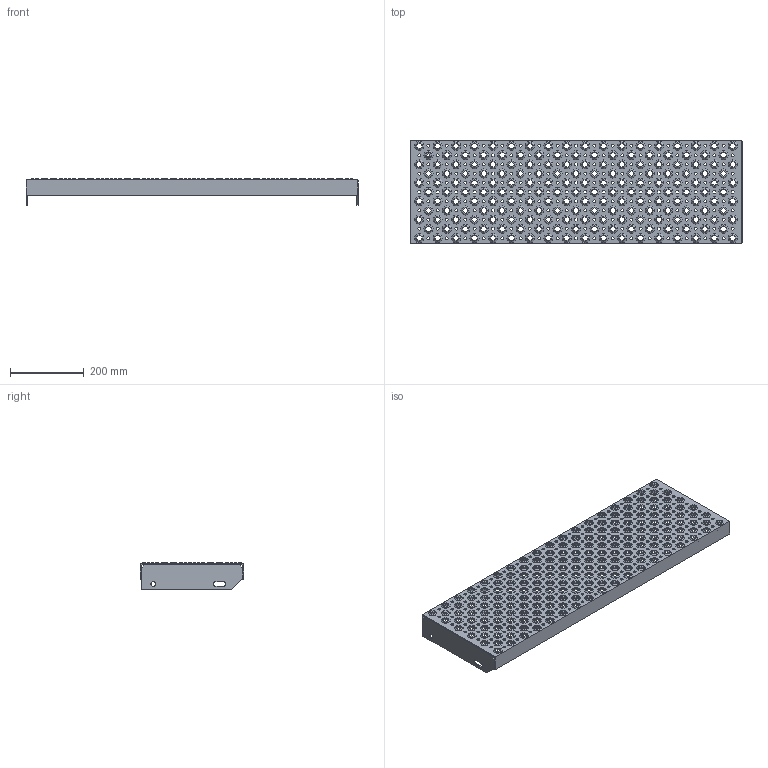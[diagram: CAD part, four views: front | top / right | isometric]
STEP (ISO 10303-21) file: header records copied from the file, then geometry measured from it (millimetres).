
FILE_DESCRIPTION(('Open CASCADE Model'),'2;1');
FILE_NAME('Open CASCADE Shape Model','2020-06-30T12:28:09',('Author'),( 'Open CASCADE'),'Open CASCADE STEP processor 7.2','Open CASCADE 7.2' ,'Unknown');
FILE_SCHEMA(('AUTOMOTIVE_DESIGN { 1 0 10303 214 1 1 1 1 }'));
Length unit declared in the file: millimetre
Products named in the file (8119): Open CASCADE STEP translator 7.2 1; Open CASCADE STEP translator 7.2 2; Open CASCADE STEP translator 7.2 3; Open CASCADE STEP translator 7.2 3.1; Open CASCADE STEP translator 7.2 3.2; Open CASCADE STEP translator 7.2 3.3; Open CASCADE STEP translator 7.2 3.4; Open CASCADE STEP translator 7.2 3.5; Open CASCADE STEP translator 7.2 3.6; Open CASCADE STEP translator 7.2 3.7; Open CASCADE STEP translator 7.2 3.8; Open CASCADE STEP translator 7.2 3.9; Open CASCADE STEP translator 7.2 3.10; Open CASCADE STEP translator 7.2 3.11; Open CASCADE STEP translator 7.2 3.12; Open CASCADE STEP translator 7.2 3.13; Open CASCADE STEP translator 7.2 3.14; Open CASCADE STEP translator 7.2 3.15; Open CASCADE STEP translator 7.2 3.16; Open CASCADE STEP translator 7.2 3.17; Open CASCADE STEP translator 7.2 3.18; Open CASCADE STEP translator 7.2 3.19; Open CASCADE STEP translator 7.2 3.20; Open CASCADE STEP translator 7.2 3.21; Open CASCADE STEP translator 7.2 3.22; Open CASCADE STEP translator 7.2 3.23; Open CASCADE STEP translator 7.2 3.24; Open CASCADE STEP translator 7.2 3.25; Open CASCADE STEP translator 7.2 3.26; Open CASCADE STEP translator 7.2 3.27; Open CASCADE STEP translator 7.2 3.28; Open CASCADE STEP translator 7.2 3.29; Open CASCADE STEP translator 7.2 3.30; Open CASCADE STEP translator 7.2 3.31; Open CASCADE STEP translator 7.2 3.32; Open CASCADE STEP translator 7.2 3.33; Open CASCADE STEP translator 7.2 3.34; Open CASCADE STEP translator 7.2 3.35; Open CASCADE STEP translator 7.2 3.36; Open CASCADE STEP translator 7.2 3.37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
Assembly tree (8116 placements, depth 2):
  Open CASCADE STEP translator 7.2 1
  Open CASCADE STEP translator 7.2 2
  Open CASCADE STEP translator 7.2 3
    Open CASCADE STEP translator 7.2 3.1
    Open CASCADE STEP translator 7.2 3.2
    Open CASCADE STEP translator 7.2 3.3
    Open CASCADE STEP translator 7.2 3.4
    Open CASCADE STEP translator 7.2 3.5
    Open CASCADE STEP translator 7.2 3.6
    Open CASCADE STEP translator 7.2 3.7
    Open CASCADE STEP translator 7.2 3.8
    Open CASCADE STEP translator 7.2 3.9
    Open CASCADE STEP translator 7.2 3.10
    Open CASCADE STEP translator 7.2 3.11
    Open CASCADE STEP translator 7.2 3.12
    Open CASCADE STEP translator 7.2 3.13
    Open CASCADE STEP translator 7.2 3.14
    Open CASCADE STEP translator 7.2 3.15
    Open CASCADE STEP translator 7.2 3.16
    Open CASCADE STEP translator 7.2 3.17
    Open CASCADE STEP translator 7.2 3.18
    Open CASCADE STEP translator 7.2 3.19
    Open CASCADE STEP translator 7.2 3.20
    Open CASCADE STEP translator 7.2 3.21
    Open CASCADE STEP translator 7.2 3.22
    Open CASCADE STEP translator 7.2 3.23
    Open CASCADE STEP translator 7.2 3.24
    Open CASCADE STEP translator 7.2 3.25
    Open CASCADE STEP translator 7.2 3.26
    Open CASCADE STEP translator 7.2 3.27
    Open CASCADE STEP translator 7.2 3.28
    Open CASCADE STEP translator 7.2 3.29
    Open CASCADE STEP translator 7.2 3.30
    Open CASCADE STEP translator 7.2 3.31
    Open CASCADE STEP translator 7.2 3.32
    Open CASCADE STEP translator 7.2 3.33
    Open CASCADE STEP translator 7.2 3.34
    Open CASCADE STEP translator 7.2 3.35
    Open CASCADE STEP translator 7.2 3.36
    Open CASCADE STEP translator 7.2 3.37
    Open CASCADE STEP translator 7.2 3.38
    Open CASCADE STEP translator 7.2 3.39
    Open CASCADE STEP translator 7.2 3.40
    Open CASCADE STEP translator 7.2 3.41
    Open CASCADE STEP translator 7.2 3.42
    Open CASCADE STEP translator 7.2 3.43
    Open CASCADE STEP translator 7.2 3.44
    Open CASCADE STEP translator 7.2 3.45
    Open CASCADE STEP translator 7.2 3.46
    Open CASCADE STEP translator 7.2 3.47
    Open CASCADE STEP translator 7.2 3.48
    Open CASCADE STEP translator 7.2 3.49
    Open CASCADE STEP translator 7.2 3.50
    Open CASCADE STEP translator 7.2 3.51
    Open CASCADE STEP translator 7.2 3.52
    Open CASCADE STEP translator 7.2 3.53
    Open CASCADE STEP translator 7.2 3.54
    Open CASCADE STEP translator 7.2 3.55
    Open CASCADE STEP translator 7.2 3.56
    Open CASCADE STEP translator 7.2 3.57
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Bounding box: 900 x 280 x 73 mm (x, y, z)
Volume: 103695.2 mm3; surface area: 842961.7 mm2
Topology: 2 solids, 8118 shells, 8144 faces, 46440 edges, 46416 vertices
Faces by surface type: plane 8138, cylinder 6
Full cylindrical faces by diameter (mm): 13 x2
Entity records: 926896 total; most frequent: CARTESIAN_POINT 155677, DIRECTION 125458, LINE 92904, VECTOR 92904, ORIENTED_EDGE 46512, PCURVE 46512, DEFINITIONAL_REPRESENTATION 46512, EDGE_CURVE 46440
